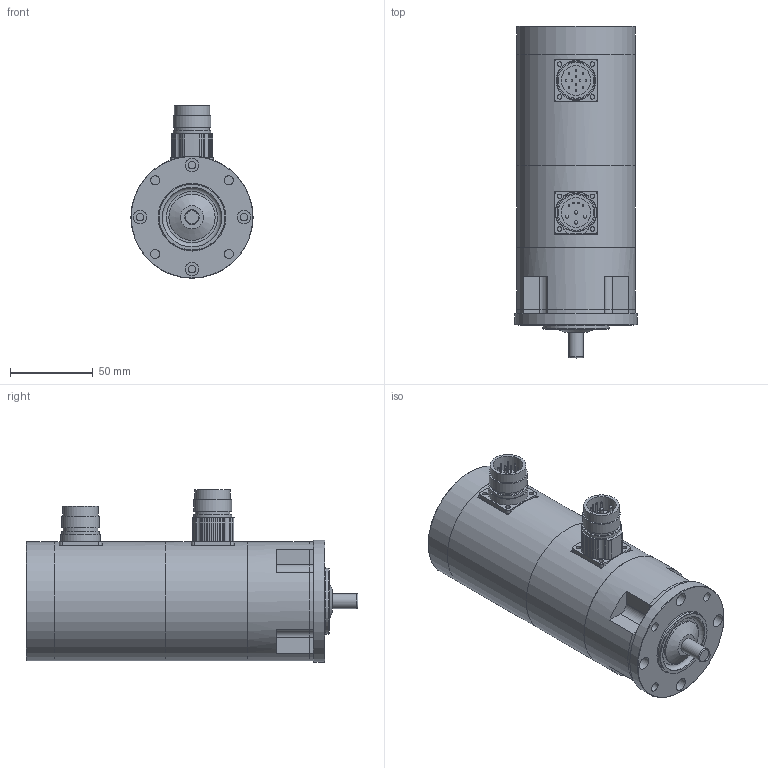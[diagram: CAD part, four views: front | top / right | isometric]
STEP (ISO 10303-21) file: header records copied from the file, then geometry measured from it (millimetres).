
FILE_DESCRIPTION(/* description */ (''),/* implementation_level */ '2;1');
FILE_NAME(/* name */ 'ksy_162e_md_rx',/* time_stamp */ '2007-03-16T13:03:50+01:00',/* author */ (''),/* organization */ (''),/* preprocessor_version */ 'ST-DEVELOPER v8',/* originating_system */ 'UNIGRAPHICS SOLUTIONS - UNIGRAPHICS 18.0',/* authorisation */ '');
FILE_SCHEMA (('AUTOMOTIVE_DESIGN { 1 2 10303 214 0 1 1 1 }'));
Length unit declared in the file: millimetre
Products named in the file (11): 014261_0; 014260_0; 064311_0; 064310_0; 111022_0; 06330401_0; DIN3760_org_A10x24x7_0; Rotor_SY 16.. E_0; Gehaeuse_SY 16.. E_0; 111014_0; KSY164_E-MD-RC_0
Assembly tree (10 placements, depth 2):
  KSY164_E-MD-RC_0
    111014_0
    Gehaeuse_SY 16.. E_0
    Rotor_SY 16.. E_0
    DIN3760_org_A10x24x7_0
    06330401_0
    111022_0
    064310_0
    064311_0
    014260_0
    014261_0
Bounding box: 74 x 201 x 104.5 mm (x, y, z)
Volume: 666072.9 mm3; surface area: 105500.5 mm2
Topology: 10 solids, 10 shells, 287 faces, 724 edges, 467 vertices
Faces by surface type: cylinder 152, plane 92, sphere 20, cone 14, torus 9
Full cylindrical faces by diameter (mm): 1 x16, 2 x4, 2.7 x8, 4.5 x4, 5.5 x4, 8 x4, 8.52 x1, 8.95 x1, 9 x1, 10 x2, 10.3 x1, 18 x2, 20 x5, 21 x3, 21.5 x2, 23 x4, 24 x3, 26 x1, 28 x1, 36 x1, 40 x1, 49.3 x1, 51 x3, 72 x4, 74 x1
Entity records: 7802 total; most frequent: DIRECTION 1456, CARTESIAN_POINT 1212, ORIENTED_EDGE 1026, AXIS2_PLACEMENT_3D 645, EDGE_CURVE 513, EDGE_LOOP 480, VERTEX_POINT 401, CIRCLE 347
